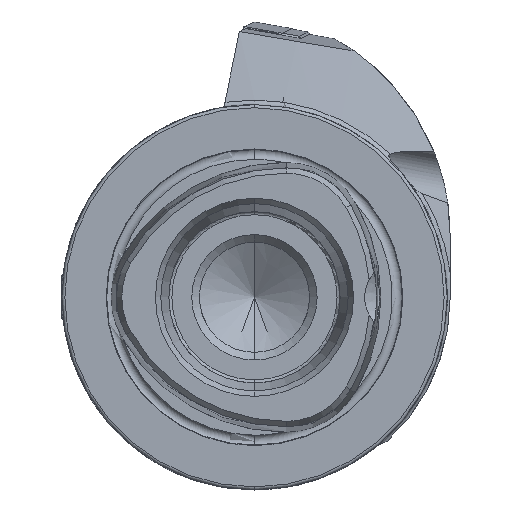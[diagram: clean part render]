
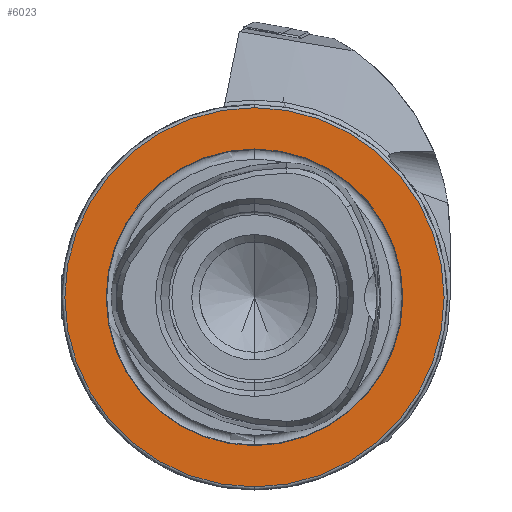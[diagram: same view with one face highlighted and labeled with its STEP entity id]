
A CAD part, left-side view. The second image highlights one B-rep face of the part: STEP entity #6023.
In plain terms, the highlighted planar face has unit normal (-1, 0, 0).
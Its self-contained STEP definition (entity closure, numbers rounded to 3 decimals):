
#185 = AXIS2_PLACEMENT_3D ( 'NONE', #10700, #9545, #13024 ) ;
#1045 = DIRECTION ( 'NONE',  ( -1., 0., 0. ) ) ;
#1128 = CIRCLE ( 'NONE', #11853, 24.25 ) ;
#1279 = ORIENTED_EDGE ( 'NONE', *, *, #3246, .T. ) ;
#1517 = EDGE_CURVE ( 'NONE', #12798, #6529, #1128, .T. ) ;
#2310 = CARTESIAN_POINT ( 'NONE',  ( 0., 0., 31. ) ) ;
#3246 = EDGE_CURVE ( 'NONE', #4130, #4684, #11899, .T. ) ;
#3275 = DIRECTION ( 'NONE',  ( -1., 0., 0. ) ) ;
#3364 = CARTESIAN_POINT ( 'NONE',  ( 0., 0., 0. ) ) ;
#3606 = ORIENTED_EDGE ( 'NONE', *, *, #1517, .F. ) ;
#3739 = CARTESIAN_POINT ( 'NONE',  ( 0., 0., 0. ) ) ;
#3983 = EDGE_LOOP ( 'NONE', ( #4925, #1279 ) ) ;
#4130 = VERTEX_POINT ( 'NONE', #10346 ) ;
#4404 = CARTESIAN_POINT ( 'NONE',  ( 0., 0., -24.25 ) ) ;
#4684 = VERTEX_POINT ( 'NONE', #2310 ) ;
#4925 = ORIENTED_EDGE ( 'NONE', *, *, #13594, .T. ) ;
#4998 = AXIS2_PLACEMENT_3D ( 'NONE', #7740, #3275, #10048 ) ;
#5270 = CARTESIAN_POINT ( 'NONE',  ( 0., 0., 0. ) ) ;
#5948 = DIRECTION ( 'NONE',  ( -1., 0., 0. ) ) ;
#6023 = ADVANCED_FACE ( 'NONE', ( #10188, #7487 ), #8440, .F. ) ;
#6041 = CIRCLE ( 'NONE', #9332, 31. ) ;
#6421 = EDGE_LOOP ( 'NONE', ( #3606, #7530 ) ) ;
#6529 = VERTEX_POINT ( 'NONE', #4404 ) ;
#7133 = EDGE_CURVE ( 'NONE', #6529, #12798, #14660, .T. ) ;
#7487 = FACE_OUTER_BOUND ( 'NONE', #3983, .T. ) ;
#7530 = ORIENTED_EDGE ( 'NONE', *, *, #7133, .F. ) ;
#7740 = CARTESIAN_POINT ( 'NONE',  ( 0., 0., 0. ) ) ;
#8440 = PLANE ( 'NONE',  #185 ) ;
#8838 = DIRECTION ( 'NONE',  ( -1., 0., 0. ) ) ;
#9332 = AXIS2_PLACEMENT_3D ( 'NONE', #5270, #8838, #14455 ) ;
#9545 = DIRECTION ( 'NONE',  ( 1., 0., 0. ) ) ;
#9775 = AXIS2_PLACEMENT_3D ( 'NONE', #3364, #1045, #11351 ) ;
#10048 = DIRECTION ( 'NONE',  ( 0., 0., 1. ) ) ;
#10188 = FACE_BOUND ( 'NONE', #6421, .T. ) ;
#10346 = CARTESIAN_POINT ( 'NONE',  ( 0., 0., -31. ) ) ;
#10700 = CARTESIAN_POINT ( 'NONE',  ( 0., 24.25, 0. ) ) ;
#11351 = DIRECTION ( 'NONE',  ( 0., 0., 1. ) ) ;
#11853 = AXIS2_PLACEMENT_3D ( 'NONE', #3739, #5948, #12936 ) ;
#11899 = CIRCLE ( 'NONE', #4998, 31. ) ;
#12113 = CARTESIAN_POINT ( 'NONE',  ( 0., 0., 24.25 ) ) ;
#12798 = VERTEX_POINT ( 'NONE', #12113 ) ;
#12936 = DIRECTION ( 'NONE',  ( 0., 0., 1. ) ) ;
#13024 = DIRECTION ( 'NONE',  ( 0., 0., -1. ) ) ;
#13594 = EDGE_CURVE ( 'NONE', #4684, #4130, #6041, .T. ) ;
#14455 = DIRECTION ( 'NONE',  ( 0., 0., 1. ) ) ;
#14660 = CIRCLE ( 'NONE', #9775, 24.25 ) ;
